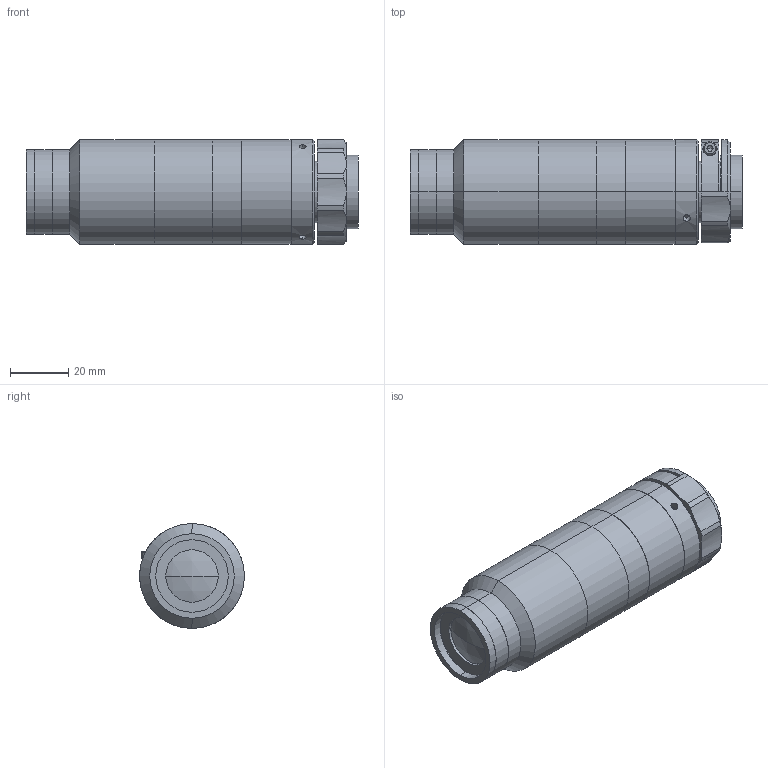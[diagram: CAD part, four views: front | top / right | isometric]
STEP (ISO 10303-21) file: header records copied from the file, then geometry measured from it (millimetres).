
FILE_DESCRIPTION (( 'STEP AP203' ), '1' );
FILE_NAME ('XF-MH075X119.STEP', '2020-08-24T07:09:20', ( 'canrill-02' ), ( '' ), 'SwSTEP 2.0', 'SolidWorks 2014', '' );
FILE_SCHEMA (( 'CONFIG_CONTROL_DESIGN' ));
Length unit declared in the file: millimetre
Products named in the file (1): XF-MH075X119
Bounding box: 114 x 36 x 36 mm (x, y, z)
Surface area: 19241.4 mm2 (no closed solid volume)
Topology: 0 solids, 14 shells, 106 faces, 274 edges, 189 vertices
Faces by surface type: cylinder 51, plane 36, cone 15, sphere 2, torus 2
Entity records: 3632 total; most frequent: CARTESIAN_POINT 889, DIRECTION 614, ORIENTED_EDGE 466, EDGE_CURVE 272, AXIS2_PLACEMENT_3D 258, VERTEX_POINT 189, CIRCLE 151, EDGE_LOOP 134
